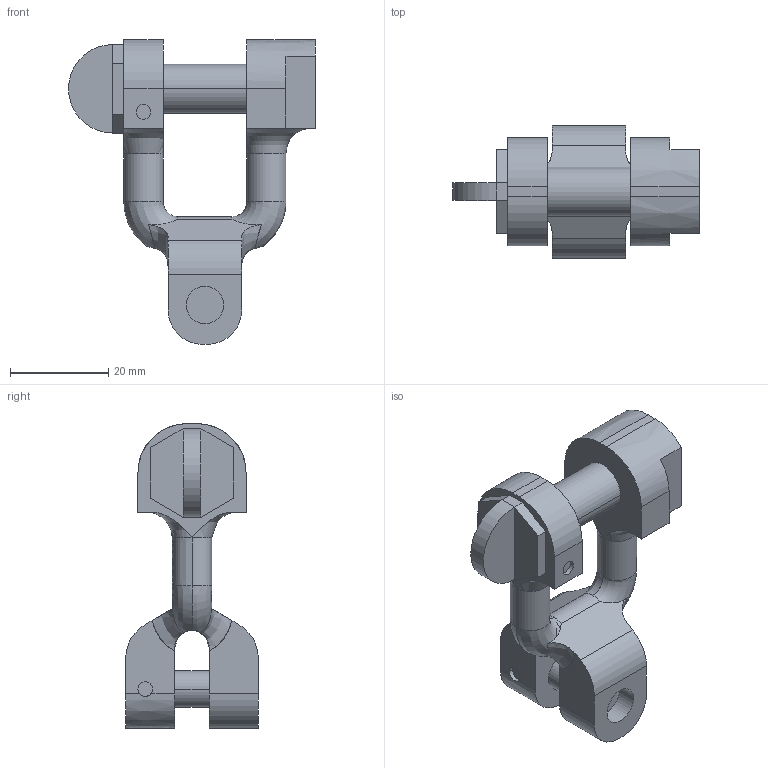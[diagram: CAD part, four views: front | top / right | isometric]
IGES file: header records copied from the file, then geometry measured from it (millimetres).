
Start section:  PTC IGES file: C:\Aktuell-Internet\CAD-Daten\3vv_gsch6.igs
Global section: file name: C:\Aktuell-Internet\CAD-Daten\3vv_gsch6.igs; native system: Pro/ENGINEER by Parametric Technology Corporation; preprocessor: 2001400; author: jakubetz; organization: Unknown; date: 030821.115959; units: millimetre
Bounding box: 50.25 x 27 x 62 mm (x, y, z)
Surface area: 7807.7 mm2 (no closed solid volume)
Topology: 0 solids, 0 shells, 378 faces, 2120 edges, 2120 vertices
Faces by surface type: bspline 331, revolution 47
